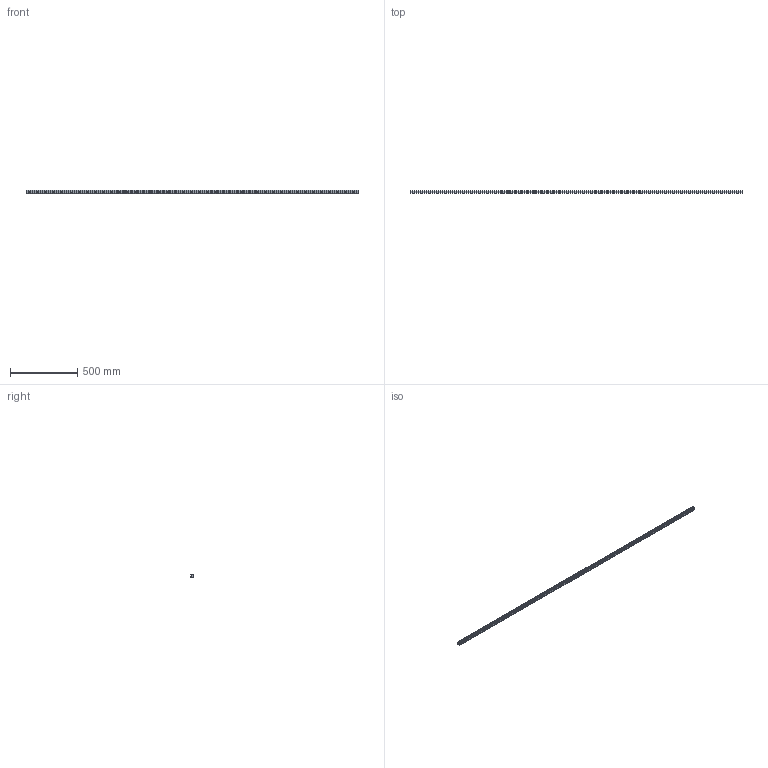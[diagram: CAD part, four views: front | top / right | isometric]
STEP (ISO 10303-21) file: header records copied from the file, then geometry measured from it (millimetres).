
FILE_DESCRIPTION (( 'STEP AP203' ), '1' );
FILE_NAME ('L1018.25R-2460.step', '2023-08-06T10:42:17', ( '' ), ( '' ), 'SwSTEP 2.0', 'SolidWorks 2019', '' );
FILE_SCHEMA (( 'CONFIG_CONTROL_DESIGN' ));
Length unit declared in the file: millimetre
Products named in the file (1): L1018.25R-2460
Bounding box: 2460 x 21.8 x 25 mm (x, y, z)
Volume: 1023084.7 mm3; surface area: 245123.1 mm2
Topology: 1 solids, 1 shells, 398 faces, 901 edges, 505 vertices
Faces by surface type: cylinder 167, cone 164, plane 67
Entity records: 10592 total; most frequent: DIRECTION 2033, CARTESIAN_POINT 1723, ORIENTED_EDGE 1638, EDGE_CURVE 819, AXIS2_PLACEMENT_3D 815, VERTEX_POINT 505, EDGE_LOOP 480, CIRCLE 416
